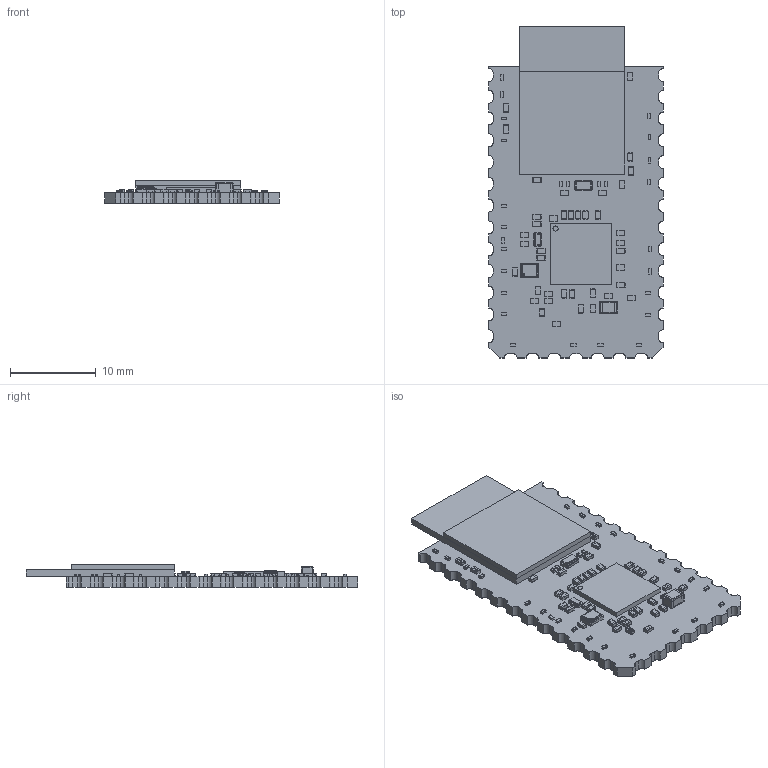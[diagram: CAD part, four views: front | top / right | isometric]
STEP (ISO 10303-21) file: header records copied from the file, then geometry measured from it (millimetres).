
FILE_DESCRIPTION(('Open CASCADE Model'),'2;1');
FILE_NAME('Open CASCADE Shape Model','2024-07-25T11:25:41',('Author'),( 'Open CASCADE'),'Open CASCADE STEP processor 7.5','Open CASCADE 7.5' ,'Unknown');
FILE_SCHEMA(('AUTOMOTIVE_DESIGN { 1 0 10303 214 1 1 1 1 }'));
Length unit declared in the file: millimetre
Products named in the file (117): PCB; Board; Open CASCADE STEP translator 7.5 1.1.1; U2; 6582237296; Extruded; 6582237136; R33; R0402; 6505580704; C46; C0402; R32; res0201-H0P23; 6505569904; R31; R30; R29; R28; 6506302496; R27; R26; R23; R22; R21; R20; R19; R17; R16; R15; R13; R12; R11; R10; R9; R8; R7; R6; R5; R4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
Assembly tree (242 placements, depth 4):
  PCB
    Board
      Open CASCADE STEP translator 7.5 1.1.1
    U2
      6582237296
        Extruded
      6582237136
        Extruded
    R33
      R0402
      6505580704
        Extruded
    C46
      C0402
      6505580704
        Extruded
    R32
      res0201-H0P23
      6505569904
        Extruded
    R31
      res0201-H0P23
      6505569904
        Extruded
    R30
      R0402
      6505580704
        Extruded
    R29
      R0402
      6505580704
        Extruded
    R28
      res0201-H0P23
      6506302496
        Extruded
    R27
      res0201-H0P23
      6506302496
        Extruded
    R26
      res0201-H0P23
      6506302496
        Extruded
    R23
      res0201-H0P23
      6505569904
        Extruded
    R22
      res0201-H0P23
      6505569904
        Extruded
    R21
      res0201-H0P23
      6506302496
        Extruded
    R20
      res0201-H0P23
      6506302496
        Extruded
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Bounding box: 20.33 x 38.74 x 2.67 mm (x, y, z)
Volume: 1167.2 mm3; surface area: 2721.3 mm2
Topology: 157 solids, 163 shells, 5967 faces, 13954 edges, 8187 vertices
Faces by surface type: plane 2784, cylinder 1683, bspline 956, revolution 288, sphere 220, torus 36
Full cylindrical faces by diameter (mm): 0.6 x1
Entity records: 33640 total; most frequent: CARTESIAN_POINT 8001, DIRECTION 4641, ORIENTED_EDGE 4282, EDGE_CURVE 2142, AXIS2_PLACEMENT_3D 1573, LINE 1487, VECTOR 1487, VERTEX_POINT 1323
